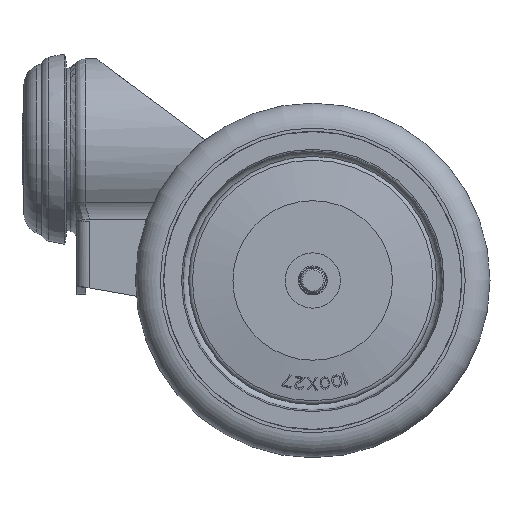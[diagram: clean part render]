
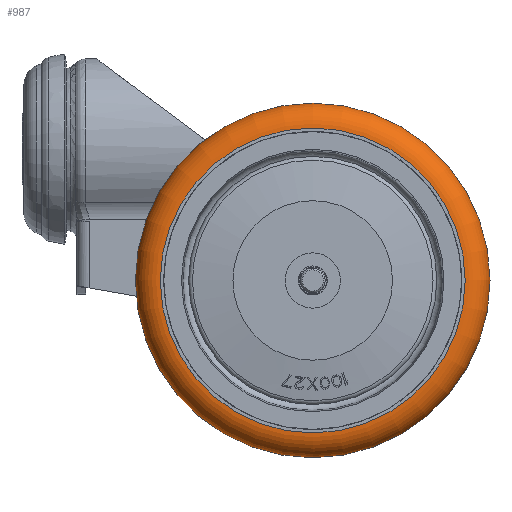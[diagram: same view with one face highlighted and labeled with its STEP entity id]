
A CAD part, left-side view. The second image highlights one B-rep face of the part: STEP entity #987.
In plain terms, the highlighted toroidal (fillet/blend) face has major radius 43 mm and minor radius 7 mm.
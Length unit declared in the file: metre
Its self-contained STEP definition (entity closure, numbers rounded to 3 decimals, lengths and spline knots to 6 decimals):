
#987=ADVANCED_FACE('',(#2795,#2796),#2797,.T.);
#2795=FACE_OUTER_BOUND('',#5971,.T.);
#2796=FACE_OUTER_BOUND('',#5972,.T.);
#2797=TOROIDAL_SURFACE('',#5973,0.043,0.007);
#5971=EDGE_LOOP('',(#13275));
#5972=EDGE_LOOP('',(#13276));
#5973=AXIS2_PLACEMENT_3D('',#13277,#13278,#13279);
#13275=ORIENTED_EDGE('',*,*,#24521,.F.);
#13276=ORIENTED_EDGE('',*,*,#24522,.F.);
#13277=CARTESIAN_POINT('',(0.0,0.0,0.0065));
#13278=DIRECTION('',(0.0,0.0,-1.0));
#13279=DIRECTION('',(1.0,0.0,0.0));
#24521=EDGE_CURVE('',#28963,#28963,#28964,.T.);
#24522=EDGE_CURVE('',#28965,#28965,#28966,.T.);
#28963=VERTEX_POINT('',#37125);
#28964=CIRCLE('',#37126,0.043);
#28965=VERTEX_POINT('',#37127);
#28966=CIRCLE('',#37128,0.05);
#37125=CARTESIAN_POINT('',(-0.043,0.0,0.0135));
#37126=AXIS2_PLACEMENT_3D('',#51781,#51782,#51783);
#37127=CARTESIAN_POINT('',(-0.05,0.0,0.0065));
#37128=AXIS2_PLACEMENT_3D('',#51784,#51785,#51786);
#51781=CARTESIAN_POINT('',(0.0,0.0,0.0135));
#51782=DIRECTION('',(0.0,0.0,1.0));
#51783=DIRECTION('',(-1.0,0.0,0.0));
#51784=CARTESIAN_POINT('',(0.0,0.0,0.0065));
#51785=DIRECTION('',(0.0,0.0,-1.0));
#51786=DIRECTION('',(-1.0,0.0,0.0));
